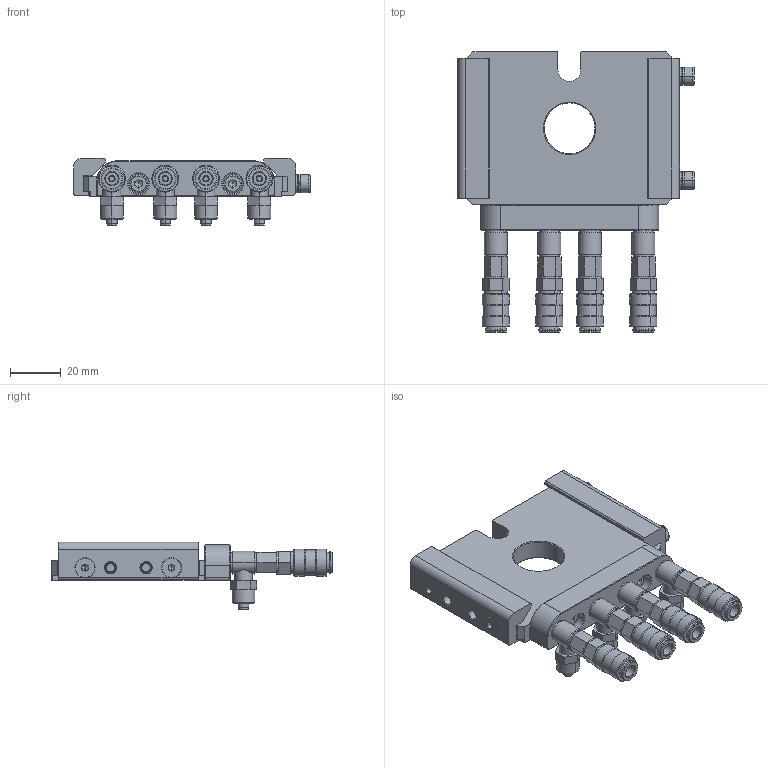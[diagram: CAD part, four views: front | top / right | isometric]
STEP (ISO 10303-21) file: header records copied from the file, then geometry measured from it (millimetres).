
FILE_DESCRIPTION (( 'STEP AP214' ), '1' );
FILE_NAME ('QCS-R60.STEP', '2023-03-15T02:51:42', ( 'Windows User' ), ( 'P R C' ), 'SwSTEP 2.0', 'SolidWorks 2019', '' );
FILE_SCHEMA (( 'AUTOMOTIVE_DESIGN' ));
Length unit declared in the file: millimetre
Products named in the file (1): QCS-R60
Bounding box: 93 x 110.1 x 26.5 mm (x, y, z)
Volume: 65710.2 mm3; surface area: 39183.8 mm2
Topology: 26 solids, 26 shells, 2302 faces, 5208 edges, 3016 vertices
Faces by surface type: cone 840, plane 786, cylinder 629, torus 28, bspline 19
Entity records: 90683 total; most frequent: CARTESIAN_POINT 12464, DIRECTION 11879, ORIENTED_EDGE 10392, EDGE_CURVE 5196, AXIS2_PLACEMENT_3D 4522, VERTEX_POINT 3016, LINE 2835, VECTOR 2835
